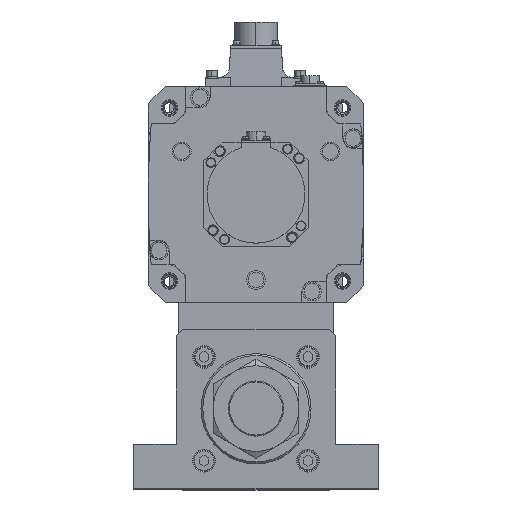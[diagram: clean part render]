
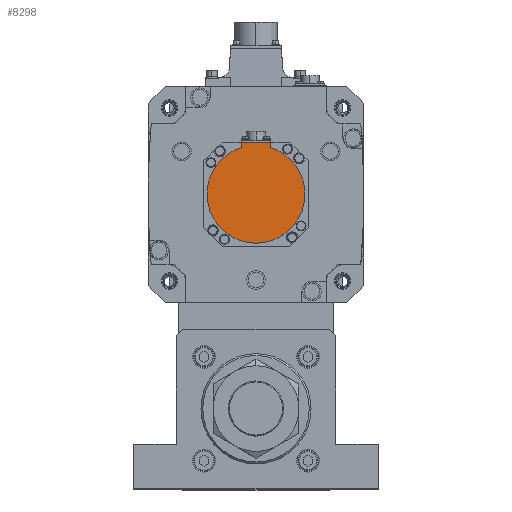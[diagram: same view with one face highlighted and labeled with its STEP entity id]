
A CAD part, top view. The second image highlights one B-rep face of the part: STEP entity #8298.
In plain terms, the highlighted planar face has unit normal (0, 0, 1) as drawn and (0, 0, -1) by its records, which use the part's own axes.
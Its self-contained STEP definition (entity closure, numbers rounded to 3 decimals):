
#656 = CARTESIAN_POINT ( 'NONE',  ( 12., -42.5, -188. ) ) ;
#4251 = CIRCLE ( 'NONE', #44887, 40. ) ;
#4571 = DIRECTION ( 'NONE',  ( 0., 1., 0. ) ) ;
#4616 = CARTESIAN_POINT ( 'NONE',  ( 0., 0., -188. ) ) ;
#6963 = ORIENTED_EDGE ( 'NONE', *, *, #29898, .T. ) ;
#8298 = ADVANCED_FACE ( 'NONE', ( #51617 ), #15498, .F. ) ;
#8439 = VERTEX_POINT ( 'NONE', #38571 ) ;
#8635 = CIRCLE ( 'NONE', #34508, 40. ) ;
#8666 = CARTESIAN_POINT ( 'NONE',  ( -12., -40.329, -188. ) ) ;
#9997 = VERTEX_POINT ( 'NONE', #52383 ) ;
#10354 = CARTESIAN_POINT ( 'NONE',  ( -12., -42.5, -188. ) ) ;
#10686 = CARTESIAN_POINT ( 'NONE',  ( 12., -1.249, -188. ) ) ;
#12344 = ORIENTED_EDGE ( 'NONE', *, *, #26355, .T. ) ;
#15270 = VECTOR ( 'NONE', #32144, 1000. ) ;
#15498 = PLANE ( 'NONE',  #46186 ) ;
#16140 = LINE ( 'NONE', #52137, #48574 ) ;
#16563 = VERTEX_POINT ( 'NONE', #32420 ) ;
#17158 = CARTESIAN_POINT ( 'NONE',  ( -40., 0., -188. ) ) ;
#17586 = AXIS2_PLACEMENT_3D ( 'NONE', #23476, #40312, #40485 ) ;
#19372 = CIRCLE ( 'NONE', #17586, 40. ) ;
#19600 = EDGE_CURVE ( 'NONE', #16563, #40538, #19372, .T. ) ;
#21274 = DIRECTION ( 'NONE',  ( 1., 0., 0. ) ) ;
#21321 = EDGE_CURVE ( 'NONE', #27172, #9997, #53032, .T. ) ;
#23476 = CARTESIAN_POINT ( 'NONE',  ( 0., 0., -188. ) ) ;
#23557 = ORIENTED_EDGE ( 'NONE', *, *, #40045, .F. ) ;
#26355 = EDGE_CURVE ( 'NONE', #38145, #8439, #49284, .T. ) ;
#27172 = VERTEX_POINT ( 'NONE', #656 ) ;
#29166 = EDGE_CURVE ( 'NONE', #40538, #8439, #4251, .T. ) ;
#29898 = EDGE_CURVE ( 'NONE', #27172, #38145, #16140, .T. ) ;
#32109 = DIRECTION ( 'NONE',  ( 0., 0., 1. ) ) ;
#32144 = DIRECTION ( 'NONE',  ( 0., 1., 0. ) ) ;
#32420 = CARTESIAN_POINT ( 'NONE',  ( 40., 0., -188. ) ) ;
#33863 = ORIENTED_EDGE ( 'NONE', *, *, #29166, .F. ) ;
#34508 = AXIS2_PLACEMENT_3D ( 'NONE', #4616, #38511, #52418 ) ;
#37879 = ORIENTED_EDGE ( 'NONE', *, *, #21321, .F. ) ;
#38029 = VECTOR ( 'NONE', #4571, 1000. ) ;
#38145 = VERTEX_POINT ( 'NONE', #10354 ) ;
#38511 = DIRECTION ( 'NONE',  ( 0., 0., 1. ) ) ;
#38571 = CARTESIAN_POINT ( 'NONE',  ( -12., -38.158, -188. ) ) ;
#40045 = EDGE_CURVE ( 'NONE', #9997, #16563, #8635, .T. ) ;
#40312 = DIRECTION ( 'NONE',  ( 0., 0., 1. ) ) ;
#40485 = DIRECTION ( 'NONE',  ( 1., 0., 0. ) ) ;
#40538 = VERTEX_POINT ( 'NONE', #17158 ) ;
#44875 = DIRECTION ( 'NONE',  ( 1., 0., 0. ) ) ;
#44887 = AXIS2_PLACEMENT_3D ( 'NONE', #46449, #50912, #21274 ) ;
#46186 = AXIS2_PLACEMENT_3D ( 'NONE', #53268, #32109, #44875 ) ;
#46449 = CARTESIAN_POINT ( 'NONE',  ( 0., 0., -188. ) ) ;
#47673 = DIRECTION ( 'NONE',  ( -1., 0., 0. ) ) ;
#48574 = VECTOR ( 'NONE', #47673, 1000. ) ;
#49284 = LINE ( 'NONE', #8666, #38029 ) ;
#50912 = DIRECTION ( 'NONE',  ( 0., 0., 1. ) ) ;
#51617 = FACE_OUTER_BOUND ( 'NONE', #53432, .T. ) ;
#52137 = CARTESIAN_POINT ( 'NONE',  ( 0., -42.5, -188. ) ) ;
#52383 = CARTESIAN_POINT ( 'NONE',  ( 12., -38.158, -188. ) ) ;
#52418 = DIRECTION ( 'NONE',  ( 1., 0., 0. ) ) ;
#52713 = ORIENTED_EDGE ( 'NONE', *, *, #19600, .F. ) ;
#53032 = LINE ( 'NONE', #10686, #15270 ) ;
#53268 = CARTESIAN_POINT ( 'NONE',  ( 0., -1.249, -188. ) ) ;
#53432 = EDGE_LOOP ( 'NONE', ( #12344, #33863, #52713, #23557, #37879, #6963 ) ) ;
